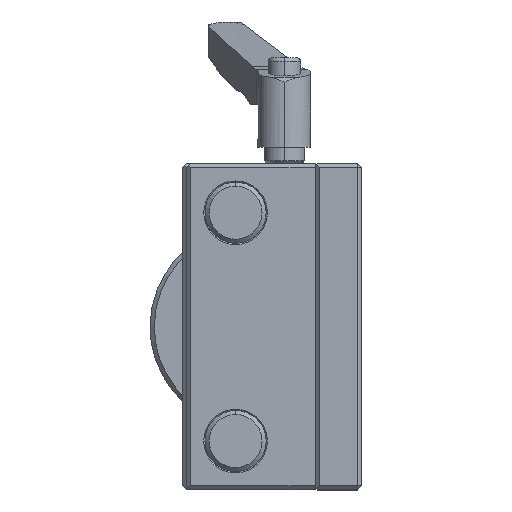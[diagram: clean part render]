
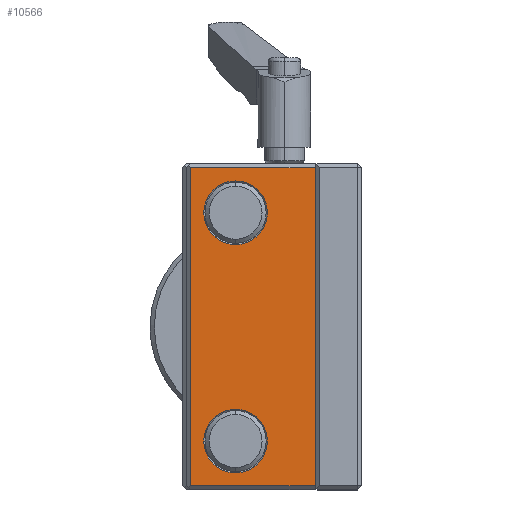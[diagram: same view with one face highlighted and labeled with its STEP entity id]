
A CAD part, left-side view. The second image highlights one B-rep face of the part: STEP entity #10566.
In plain terms, the highlighted planar face has unit normal (-1, 0, 0).
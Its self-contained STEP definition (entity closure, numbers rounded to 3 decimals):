
#177 = CARTESIAN_POINT ( 'NONE',  ( -110., 11.5, -39. ) ) ;
#665 = EDGE_CURVE ( 'NONE', #9823, #22043, #23054, .T. ) ;
#1013 = VERTEX_POINT ( 'NONE', #10343 ) ;
#1031 = VERTEX_POINT ( 'NONE', #16121 ) ;
#1037 = AXIS2_PLACEMENT_3D ( 'NONE', #6436, #13297, #17044 ) ;
#1071 = CARTESIAN_POINT ( 'NONE',  ( -110., 31., -35.8 ) ) ;
#1235 = CARTESIAN_POINT ( 'NONE',  ( -110., 31., -20.2 ) ) ;
#2507 = AXIS2_PLACEMENT_3D ( 'NONE', #17177, #8236, #4561 ) ;
#3113 = VECTOR ( 'NONE', #21271, 1000. ) ;
#3854 = VERTEX_POINT ( 'NONE', #12480 ) ;
#3927 = DIRECTION ( 'NONE',  ( 0., 0., 1. ) ) ;
#4561 = DIRECTION ( 'NONE',  ( 0., 0., 1. ) ) ;
#4991 = EDGE_LOOP ( 'NONE', ( #23312, #7542 ) ) ;
#5386 = FACE_BOUND ( 'NONE', #4991, .T. ) ;
#5616 = FACE_BOUND ( 'NONE', #6817, .T. ) ;
#6436 = CARTESIAN_POINT ( 'NONE',  ( -110., 31., 28. ) ) ;
#6809 = CIRCLE ( 'NONE', #12076, 7.8 ) ;
#6817 = EDGE_LOOP ( 'NONE', ( #14560, #15724 ) ) ;
#7325 = ORIENTED_EDGE ( 'NONE', *, *, #7568, .T. ) ;
#7356 = CARTESIAN_POINT ( 'NONE',  ( -110., 11.5, 40. ) ) ;
#7542 = ORIENTED_EDGE ( 'NONE', *, *, #14140, .T. ) ;
#7568 = EDGE_CURVE ( 'NONE', #1013, #1031, #8925, .T. ) ;
#7785 = CARTESIAN_POINT ( 'NONE',  ( -110., 11.5, 39. ) ) ;
#8236 = DIRECTION ( 'NONE',  ( 1., 0., 0. ) ) ;
#8722 = VERTEX_POINT ( 'NONE', #12380 ) ;
#8925 = LINE ( 'NONE', #177, #15706 ) ;
#9010 = EDGE_LOOP ( 'NONE', ( #11512, #7325, #15601, #19512 ) ) ;
#9823 = VERTEX_POINT ( 'NONE', #7785 ) ;
#10343 = CARTESIAN_POINT ( 'NONE',  ( -110., 42., -39. ) ) ;
#10426 = LINE ( 'NONE', #22797, #3113 ) ;
#10429 = CIRCLE ( 'NONE', #2507, 7.8 ) ;
#10468 = VERTEX_POINT ( 'NONE', #1235 ) ;
#10566 = ADVANCED_FACE ( 'NONE', ( #5386, #5616, #17859 ), #16467, .T. ) ;
#10605 = VECTOR ( 'NONE', #23371, 1000. ) ;
#11512 = ORIENTED_EDGE ( 'NONE', *, *, #17058, .T. ) ;
#11884 = EDGE_CURVE ( 'NONE', #21021, #10468, #6809, .T. ) ;
#11991 = CIRCLE ( 'NONE', #1037, 7.8 ) ;
#12076 = AXIS2_PLACEMENT_3D ( 'NONE', #12441, #17716, #23163 ) ;
#12380 = CARTESIAN_POINT ( 'NONE',  ( -110., 31., 35.8 ) ) ;
#12441 = CARTESIAN_POINT ( 'NONE',  ( -110., 31., -28. ) ) ;
#12480 = CARTESIAN_POINT ( 'NONE',  ( -110., 31., 20.2 ) ) ;
#12552 = EDGE_CURVE ( 'NONE', #10468, #21021, #10429, .T. ) ;
#12595 = CARTESIAN_POINT ( 'NONE',  ( -110., 11.5, 40. ) ) ;
#12817 = DIRECTION ( 'NONE',  ( 0., 0., 1. ) ) ;
#13297 = DIRECTION ( 'NONE',  ( 1., 0., 0. ) ) ;
#14119 = CARTESIAN_POINT ( 'NONE',  ( -110., 31., 28. ) ) ;
#14140 = EDGE_CURVE ( 'NONE', #3854, #8722, #11991, .T. ) ;
#14560 = ORIENTED_EDGE ( 'NONE', *, *, #12552, .T. ) ;
#15334 = CIRCLE ( 'NONE', #22472, 7.8 ) ;
#15601 = ORIENTED_EDGE ( 'NONE', *, *, #19967, .F. ) ;
#15706 = VECTOR ( 'NONE', #17752, 1000. ) ;
#15724 = ORIENTED_EDGE ( 'NONE', *, *, #11884, .T. ) ;
#16121 = CARTESIAN_POINT ( 'NONE',  ( -110., 11.5, -39. ) ) ;
#16467 = PLANE ( 'NONE',  #23058 ) ;
#17044 = DIRECTION ( 'NONE',  ( 0., 0., 1. ) ) ;
#17058 = EDGE_CURVE ( 'NONE', #22043, #1013, #10426, .T. ) ;
#17177 = CARTESIAN_POINT ( 'NONE',  ( -110., 31., -28. ) ) ;
#17716 = DIRECTION ( 'NONE',  ( 1., 0., 0. ) ) ;
#17752 = DIRECTION ( 'NONE',  ( 0., -1., 0. ) ) ;
#17859 = FACE_OUTER_BOUND ( 'NONE', #9010, .T. ) ;
#19160 = CARTESIAN_POINT ( 'NONE',  ( -110., 42., 39. ) ) ;
#19512 = ORIENTED_EDGE ( 'NONE', *, *, #665, .T. ) ;
#19606 = VECTOR ( 'NONE', #22710, 1000. ) ;
#19967 = EDGE_CURVE ( 'NONE', #9823, #1031, #21723, .T. ) ;
#21021 = VERTEX_POINT ( 'NONE', #1071 ) ;
#21271 = DIRECTION ( 'NONE',  ( 0., 0., -1. ) ) ;
#21524 = DIRECTION ( 'NONE',  ( -1., 0., 0. ) ) ;
#21678 = CARTESIAN_POINT ( 'NONE',  ( -110., 42., 39. ) ) ;
#21723 = LINE ( 'NONE', #7356, #10605 ) ;
#22043 = VERTEX_POINT ( 'NONE', #21678 ) ;
#22396 = EDGE_CURVE ( 'NONE', #8722, #3854, #15334, .T. ) ;
#22472 = AXIS2_PLACEMENT_3D ( 'NONE', #14119, #23175, #3927 ) ;
#22710 = DIRECTION ( 'NONE',  ( 0., 1., 0. ) ) ;
#22797 = CARTESIAN_POINT ( 'NONE',  ( -110., 42., -39. ) ) ;
#23054 = LINE ( 'NONE', #19160, #19606 ) ;
#23058 = AXIS2_PLACEMENT_3D ( 'NONE', #12595, #21524, #12817 ) ;
#23163 = DIRECTION ( 'NONE',  ( 0., 0., 1. ) ) ;
#23175 = DIRECTION ( 'NONE',  ( 1., 0., 0. ) ) ;
#23312 = ORIENTED_EDGE ( 'NONE', *, *, #22396, .T. ) ;
#23371 = DIRECTION ( 'NONE',  ( 0., 0., -1. ) ) ;
